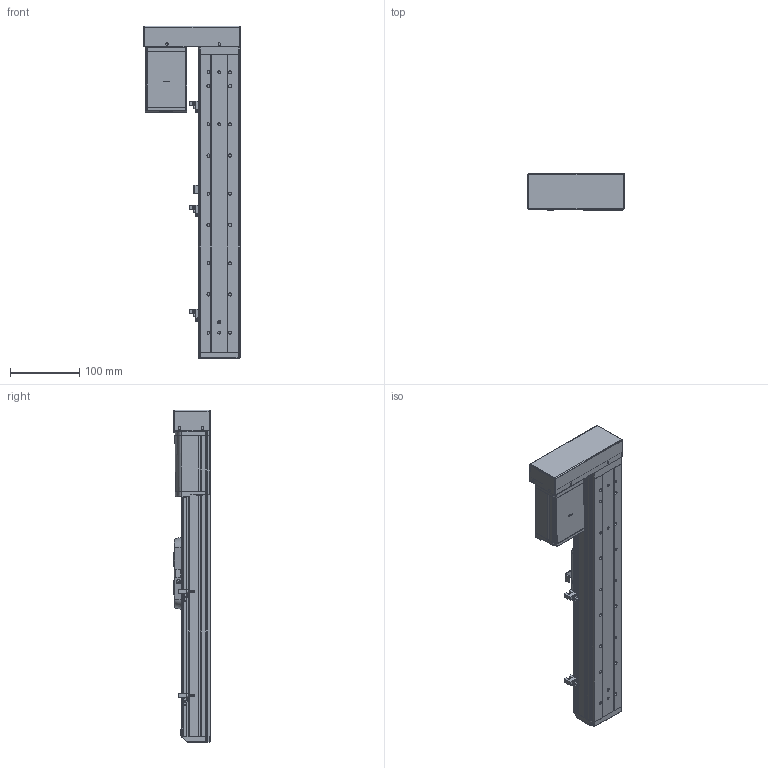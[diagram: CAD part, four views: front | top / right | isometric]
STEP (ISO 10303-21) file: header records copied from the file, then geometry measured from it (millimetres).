
FILE_DESCRIPTION (( 'STEP AP203' ), '1' );
FILE_NAME ('GERC60-300-NLXD.STEP', '2020-05-20T23:46:32', ( '' ), ( '' ), 'SwSTEP 2.0', 'SolidWorks 2019', '' );
FILE_SCHEMA (( 'CONFIG_CONTROL_DESIGN' ));
Length unit declared in the file: millimetre
Products named in the file (3): Group1^GERC60-300-NLXD_defeature_GMT; Group2^GERC60-300-NLXD_defeature_GMT; GERC60-300-NLXD
Assembly tree (2 placements, depth 2):
  GERC60-300-NLXD
    Group1^GERC60-300-NLXD_defeature_GMT
    Group2^GERC60-300-NLXD_defeature_GMT
Bounding box: 138.5 x 53.04 x 478 mm (x, y, z)
Volume: 942210.6 mm3; surface area: 300126.7 mm2
Topology: 4 solids, 4 shells, 1789 faces, 4612 edges, 2838 vertices
Faces by surface type: plane 845, cylinder 554, bspline 176, torus 126, cone 68, sphere 20
Entity records: 64280 total; most frequent: CARTESIAN_POINT 21139, ORIENTED_EDGE 9174, DIRECTION 8779, EDGE_CURVE 4587, AXIS2_PLACEMENT_3D 3038, VERTEX_POINT 2832, LINE 2703, VECTOR 2703
